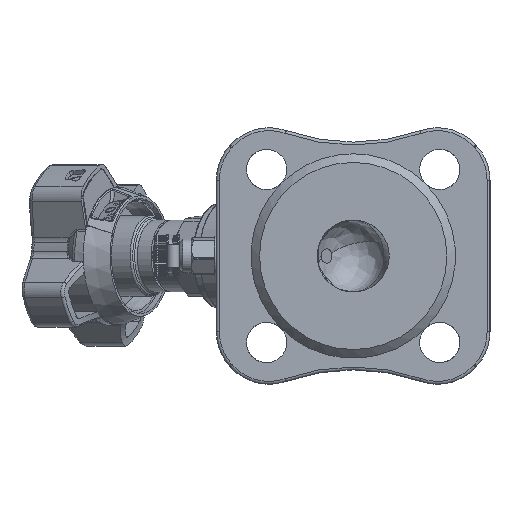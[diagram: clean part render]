
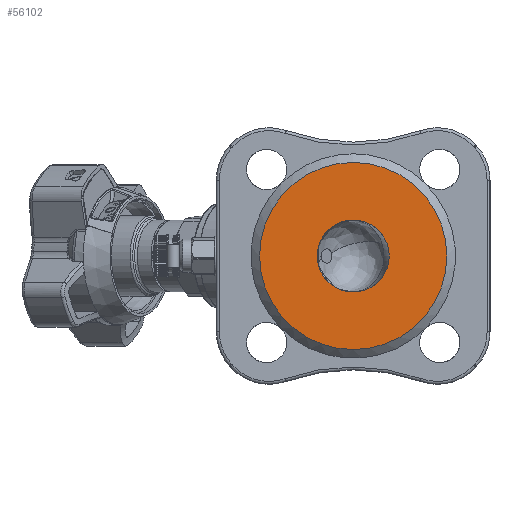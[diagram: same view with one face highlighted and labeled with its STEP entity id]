
A CAD part, left-side view. The second image highlights one B-rep face of the part: STEP entity #56102.
In plain terms, the highlighted planar face has unit normal (-1, 0, 0).
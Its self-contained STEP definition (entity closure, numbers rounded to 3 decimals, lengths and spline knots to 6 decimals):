
#966=PLANE('',#59939);
#2695=FACE_BOUND('',#15863,.T.);
#12623=FACE_OUTER_BOUND('',#15862,.T.);
#15862=EDGE_LOOP('',(#38798));
#15863=EDGE_LOOP('',(#38799));
#20812=CIRCLE('',#59752,0.0125);
#20816=CIRCLE('',#59757,0.0325);
#23412=VERTEX_POINT('',#81813);
#23414=VERTEX_POINT('',#81933);
#29311=EDGE_CURVE('',#23412,#23412,#20812,.T.);
#29317=EDGE_CURVE('',#23414,#23414,#20816,.T.);
#38798=ORIENTED_EDGE('',*,*,#29317,.T.);
#38799=ORIENTED_EDGE('',*,*,#29311,.F.);
#56102=ADVANCED_FACE('',(#12623,#2695),#966,.T.);
#59752=AXIS2_PLACEMENT_3D('',#81815,#65298,#65299);
#59757=AXIS2_PLACEMENT_3D('',#81935,#65309,#65310);
#59939=AXIS2_PLACEMENT_3D('',#86514,#65818,#65819);
#65298=DIRECTION('center_axis',(-1.,0.,0.));
#65299=DIRECTION('ref_axis',(0.,0.,1.));
#65309=DIRECTION('center_axis',(-1.,0.,0.));
#65310=DIRECTION('ref_axis',(0.,0.,1.));
#65818=DIRECTION('center_axis',(-1.,0.,0.));
#65819=DIRECTION('ref_axis',(0.,0.,1.));
#81813=CARTESIAN_POINT('',(-0.08,0.,-0.0125));
#81815=CARTESIAN_POINT('Origin',(-0.08,0.,0.));
#81933=CARTESIAN_POINT('',(-0.08,0.,0.0325));
#81935=CARTESIAN_POINT('Origin',(-0.08,0.,0.));
#86514=CARTESIAN_POINT('Origin',(-0.08,-0.0325,0.));
